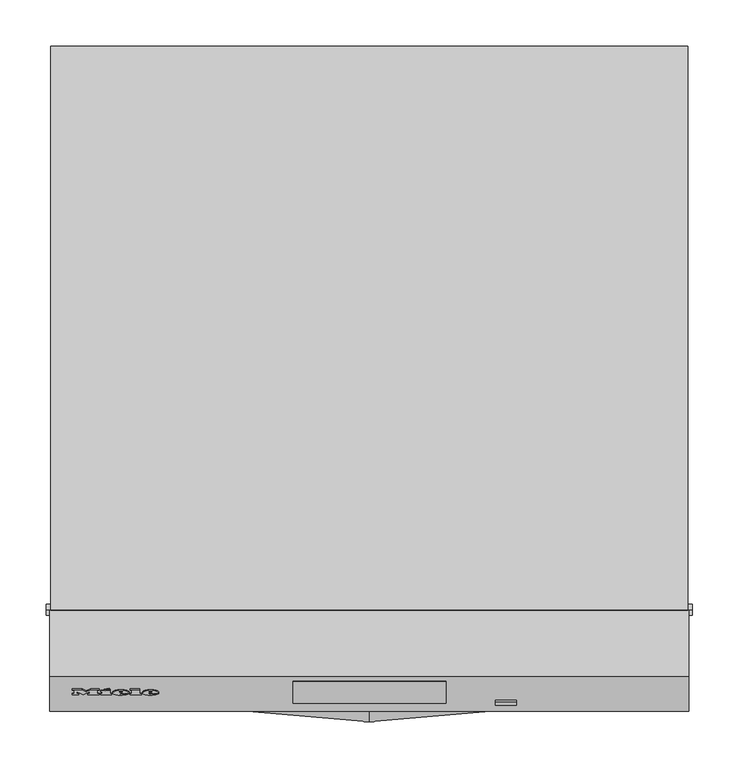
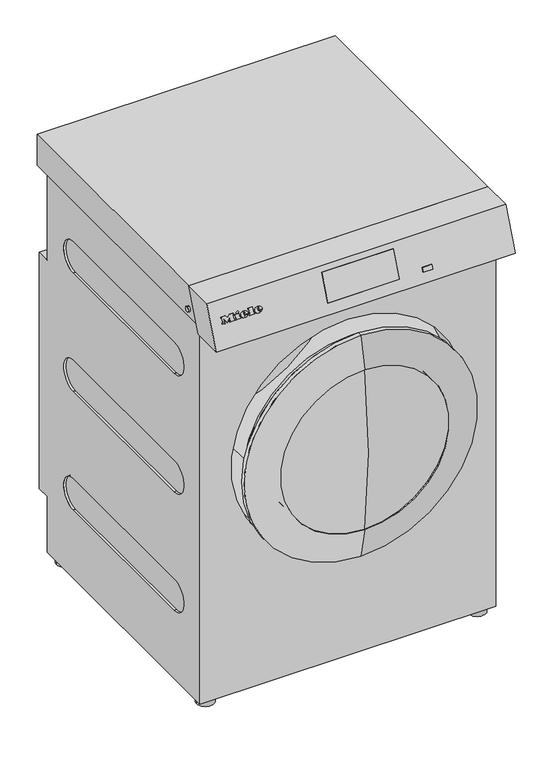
"""IFC4 building model written with IfcOpenShell, lengths in millimetres: proxy geometry, 11924480_EU_PDR910G_IG : 52910010_EU_11924480_PDR910G_IG."""

from ifc_helpers import new_model, si_unit, point, frame, frame_2d, origin, origin_with_axes, place, context, project, spatial, polyline, circle_curve, ellipse_curve, trimmed, segment, composite_curve, outline, extrude, faceted_brep, source, transform, mapped, element, save
from ifc_brep_helpers import plane_surface, cylinder_surface, revolved_surface, extruded_surface, advanced_brep


def specialty_equipment_07fa5085(model_context):
    return source(origin(), model_context, "Body", "SolidModel", [
        advanced_brep(
        [(-238.2722, -700.6126019, 975.6957235), (-238.2722, -700.0401393, 977.1419447), (-227.9696, -700.0401393, 977.1419447), (-245.8952, -700.0401393, 977.1419447), (-241.6602, -701.9559051, 972.3021154), (-228.2314, -700.6126019, 975.6957235), (-232.8822, -700.6126019, 975.6957235), (-236.5474, -701.2474119, 974.0919931), (-238.2722, -699.3146422, 978.9747795), (-238.2722, -698.6968361, 980.5355529), (-235.6388, -698.6968361, 980.5355529), (-235.6388, -699.3146422, 978.9747795), (-238.2722, -699.6827953, 975.3276751), (-236.5474, -700.3176052, 973.7239446), (-232.8822, -699.6827953, 975.3276751), (-228.2314, -699.6827953, 975.3276751), (-241.6602, -701.0260985, 971.9340669), (-245.8952, -699.1103327, 976.7738963), (-227.9696, -699.1103327, 976.7738963), (-238.2722, -699.1103327, 976.7738963), (-238.2722, -698.3848356, 978.6067311), (-235.6388, -698.3848356, 978.6067311), (-235.6388, -697.7670295, 980.1675045), (-238.2722, -697.7670295, 980.1675045)],
        [
            (0, 1),
            (1, 2),
            (2, 3, ellipse_curve(frame((-236.9324, -700.0401393, 977.1419447), z_axis=(0.0, -0.9298066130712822, 0.36804845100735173), x_axis=(-1.0, 0.0, 0.0)), 8.9628, 7.4074)),
            (3, 4, circle_curve(frame((-239.935316, -699.8474292, 977.6287915), z_axis=(0.0, -0.9298066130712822, 0.36804845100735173), x_axis=(0.0, -0.36804845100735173, -0.9298066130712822)), 5.98284)),
            (4, 5, circle_curve(frame((-237.1118224, -698.3510914, 981.4090133), z_axis=(0.0, -0.9298066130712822, 0.36804845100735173), x_axis=(0.0, -0.36804845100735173, -0.9298066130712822)), 10.7989819)),
            (5, 6),
            (6, 7, circle_curve(frame((-235.7946118, -700.0854829, 977.0273926), z_axis=(0.0, 0.9298066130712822, -0.36804845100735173), x_axis=(0.0, -0.36804845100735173, -0.9298066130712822)), 3.2455106)),
            (7, 0, circle_curve(frame((-236.5474, -700.6126019, 975.6957235), z_axis=(0.0, 0.9298066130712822, -0.36804845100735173), x_axis=(0.0, -0.36804845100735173, -0.9298066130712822)), 1.7248)),
            (8, 9),
            (9, 10, circle_curve(frame((-236.9555, -698.6968361, 980.5355529), z_axis=(0.0, 0.9298066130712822, -0.36804845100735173), x_axis=(0.0, -0.36804845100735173, -0.9298066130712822)), 1.3167)),
            (10, 11),
            (11, 8),
            (12, 13, circle_curve(frame((-236.5474, -699.6827953, 975.3276751), z_axis=(0.0, -0.9298066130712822, 0.36804845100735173), x_axis=(0.0, -0.36804845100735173, -0.9298066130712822)), 1.7248)),
            (13, 14, circle_curve(frame((-235.7946118, -699.1556763, 976.6593441), z_axis=(0.0, -0.9298066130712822, 0.36804845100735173), x_axis=(0.0, -0.36804845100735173, -0.9298066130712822)), 3.2455106)),
            (14, 15),
            (15, 16, circle_curve(frame((-237.1118224, -697.4212848, 981.0409648), z_axis=(0.0, 0.9298066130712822, -0.36804845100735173), x_axis=(0.0, -0.36804845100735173, -0.9298066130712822)), 10.7989819)),
            (16, 17, circle_curve(frame((-239.935316, -698.9176225, 977.260743), z_axis=(0.0, 0.9298066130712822, -0.36804845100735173), x_axis=(0.0, -0.36804845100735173, -0.9298066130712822)), 5.98284)),
            (17, 18, ellipse_curve(frame((-236.9324, -699.1103327, 976.7738963), z_axis=(0.0, 0.9298066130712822, -0.36804845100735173), x_axis=(-1.0, 0.0, 0.0)), 8.9628, 7.4074)),
            (18, 19),
            (19, 12),
            (20, 21),
            (21, 22),
            (22, 23, circle_curve(frame((-236.9555, -697.7670295, 980.1675045), z_axis=(0.0, -0.9298066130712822, 0.36804845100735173), x_axis=(0.0, -0.36804845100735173, -0.9298066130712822)), 1.3167)),
            (23, 20),
            (0, 12),
            (19, 1),
            (18, 2),
            (5, 15),
            (14, 6),
            (17, 3),
            (13, 7),
            (16, 4),
            (8, 20),
            (23, 9),
            (22, 10),
            (21, 11),
        ],
        [
            plane_surface(frame((-238.2722, -700.0401393, 977.1419447), z_axis=(0.0, -0.9298066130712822, 0.36804845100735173), x_axis=(0.0, 0.36804845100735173, 0.9298066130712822))),
            plane_surface(frame((-238.2722, -699.1103327, 976.7738963), z_axis=(0.0, 0.9298066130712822, -0.36804845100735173), x_axis=(0.0, -0.36804845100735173, -0.9298066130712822))),
            plane_surface(frame((-238.2722, -700.6126019, 975.6957235), z_axis=(1.0, 0.0, 0.0), x_axis=(0.0, 0.9298066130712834, -0.3680484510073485))),
            plane_surface(frame((-238.2722, -700.0401393, 977.1419447), z_axis=(0.0, -0.3680484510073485, -0.9298066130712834), x_axis=(0.0, 0.9298066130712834, -0.3680484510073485))),
            plane_surface(frame((-228.2314, -700.6126019, 975.6957235), z_axis=(0.0, 0.3680484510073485, 0.9298066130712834), x_axis=(0.0, 0.9298066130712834, -0.3680484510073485))),
            extruded_surface(trimmed(ellipse_curve(frame((-236.9324, -698.1805261, 976.4058478), z_axis=(0.0, -0.9298066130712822, 0.36804845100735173), x_axis=(-1.0, 0.0, 0.0)), 8.9628, 7.4074), [point((-227.9696, -698.1805261, 976.4058478))], [point((-245.8952, -698.1805261, 976.4058478))], True, "CARTESIAN"), (0.0, -0.9298066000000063, 0.3680485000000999), 1.0000000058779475),
            revolved_surface(polyline([(-235.7946118, -700.3501813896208, 973.6416468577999), (-235.7946118, -701.2799880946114, 974.009695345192)]), (-235.7946118, -699.1556763, 976.6593441), (0.0, 0.9298066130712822, -0.36804845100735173)),
            revolved_surface(polyline([(-236.5474, -700.3176051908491, 973.723944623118), (-236.5474, -701.2474118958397, 974.0919931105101)]), (-236.5474, -699.6827953, 975.3276751), (0.0, 0.9298066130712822, -0.36804845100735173)),
            cylinder_surface(frame((-239.935316, -698.9176225, 977.260743), z_axis=(0.0, -0.9298066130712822, 0.36804845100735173), x_axis=(0.0, -0.36804845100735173, -0.9298066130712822)), 5.98284),
            cylinder_surface(frame((-237.1118224, -697.4212848, 981.0409648), z_axis=(0.0, -0.9298066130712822, 0.36804845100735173), x_axis=(0.0, -0.36804845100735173, -0.9298066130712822)), 10.7989819),
            plane_surface(frame((-238.2722, -699.3146422, 978.9747795), z_axis=(1.0, 0.0, 0.0), x_axis=(0.0, 0.9298066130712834, -0.3680484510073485))),
            revolved_surface(polyline([(-236.9555, -698.2516388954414, 978.943228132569), (-236.9555, -699.1814454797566, 979.3112765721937)]), (-236.9555, -697.7670295, 980.1675045), (0.0, 0.9298066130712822, -0.36804845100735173)),
            plane_surface(frame((-235.6388, -698.6968361, 980.5355529), z_axis=(-1.0, 0.0, 0.0), x_axis=(0.0, 0.9298066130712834, -0.3680484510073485))),
            plane_surface(frame((-235.6388, -699.3146422, 978.9747795), z_axis=(0.0, 0.3680484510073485, 0.9298066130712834), x_axis=(0.0, 0.9298066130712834, -0.3680484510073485))),
        ],
        [
            (0, [[1, 2, 3, 4, 5, 6, 7, 8], [9, 10, 11, 12]]),
            (1, [[13, 14, 15, 16, 17, 18, 19, 20], [21, 22, 23, 24]]),
            (2, [[-1, 25, -20, 26]]),
            (3, [[-2, -26, -19, 27]]),
            (4, [[-6, 28, -15, 29]]),
            (5, [[-3, -27, -18, 30]]),
            (6, [[-7, -29, -14, 31]]),
            (7, [[-8, -31, -13, -25]]),
            (8, [[-4, -30, -17, 32]]),
            (9, [[-5, -32, -16, -28]]),
            (10, [[-9, 33, -24, 34]]),
            (11, [[-10, -34, -23, 35]]),
            (12, [[-11, -35, -22, 36]]),
            (13, [[-12, -36, -21, -33]]),
        ],
    ),
        advanced_brep(
        [(-270.412, -700.6126019, 975.6957235), (-270.412, -700.0401393, 977.1419447), (-260.1094, -700.0401393, 977.1419447), (-278.035, -700.0401393, 977.1419447), (-273.8, -701.9559051, 972.3021154), (-260.3712, -700.6126019, 975.6957235), (-265.022, -700.6126019, 975.6957235), (-268.6872, -701.2474119, 974.0919931), (-270.412, -699.3146422, 978.9747795), (-270.412, -698.6968361, 980.5355529), (-267.7786, -698.6968361, 980.5355529), (-267.7786, -699.3146422, 978.9747795), (-270.412, -699.6827953, 975.3276751), (-268.6872, -700.3176052, 973.7239446), (-265.022, -699.6827953, 975.3276751), (-260.3712, -699.6827953, 975.3276751), (-273.8, -701.0260985, 971.9340669), (-278.035, -699.1103327, 976.7738963), (-260.1094, -699.1103327, 976.7738963), (-270.412, -699.1103327, 976.7738963), (-270.412, -698.3848356, 978.6067311), (-267.7786, -698.3848356, 978.6067311), (-267.7786, -697.7670295, 980.1675045), (-270.412, -697.7670295, 980.1675045)],
        [
            (0, 1),
            (1, 2),
            (2, 3, ellipse_curve(frame((-269.0722, -700.0401393, 977.1419447), z_axis=(0.0, -0.9298066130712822, 0.36804845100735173), x_axis=(-1.0, 0.0, 0.0)), 8.9628, 7.4074)),
            (3, 4, circle_curve(frame((-272.075116, -699.8474292, 977.6287915), z_axis=(0.0, -0.9298066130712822, 0.36804845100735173), x_axis=(0.0, -0.36804845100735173, -0.9298066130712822)), 5.98284)),
            (4, 5, circle_curve(frame((-269.2516224, -698.3510914, 981.4090133), z_axis=(0.0, -0.9298066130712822, 0.36804845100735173), x_axis=(0.0, -0.36804845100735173, -0.9298066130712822)), 10.7989819)),
            (5, 6),
            (6, 7, circle_curve(frame((-267.9344118, -700.0854829, 977.0273926), z_axis=(0.0, 0.9298066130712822, -0.36804845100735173), x_axis=(0.0, -0.36804845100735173, -0.9298066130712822)), 3.2455106)),
            (7, 0, circle_curve(frame((-268.6872, -700.6126019, 975.6957235), z_axis=(0.0, 0.9298066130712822, -0.36804845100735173), x_axis=(0.0, -0.36804845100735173, -0.9298066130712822)), 1.7248)),
            (8, 9),
            (9, 10, circle_curve(frame((-269.0953, -698.6968361, 980.5355529), z_axis=(0.0, 0.9298066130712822, -0.36804845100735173), x_axis=(0.0, -0.36804845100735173, -0.9298066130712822)), 1.3167)),
            (10, 11),
            (11, 8),
            (12, 13, circle_curve(frame((-268.6872, -699.6827953, 975.3276751), z_axis=(0.0, -0.9298066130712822, 0.36804845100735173), x_axis=(0.0, -0.36804845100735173, -0.9298066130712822)), 1.7248)),
            (13, 14, circle_curve(frame((-267.9344118, -699.1556763, 976.6593441), z_axis=(0.0, -0.9298066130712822, 0.36804845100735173), x_axis=(0.0, -0.36804845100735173, -0.9298066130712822)), 3.2455106)),
            (14, 15),
            (15, 16, circle_curve(frame((-269.2516224, -697.4212848, 981.0409648), z_axis=(0.0, 0.9298066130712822, -0.36804845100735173), x_axis=(0.0, -0.36804845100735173, -0.9298066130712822)), 10.7989819)),
            (16, 17, circle_curve(frame((-272.075116, -698.9176225, 977.260743), z_axis=(0.0, 0.9298066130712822, -0.36804845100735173), x_axis=(0.0, -0.36804845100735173, -0.9298066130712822)), 5.98284)),
            (17, 18, ellipse_curve(frame((-269.0722, -699.1103327, 976.7738963), z_axis=(0.0, 0.9298066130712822, -0.36804845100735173), x_axis=(-1.0, 0.0, 0.0)), 8.9628, 7.4074)),
            (18, 19),
            (19, 12),
            (20, 21),
            (21, 22),
            (22, 23, circle_curve(frame((-269.0953, -697.7670295, 980.1675045), z_axis=(0.0, -0.9298066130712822, 0.36804845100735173), x_axis=(0.0, -0.36804845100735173, -0.9298066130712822)), 1.3167)),
            (23, 20),
            (0, 12),
            (19, 1),
            (18, 2),
            (5, 15),
            (14, 6),
            (17, 3),
            (13, 7),
            (16, 4),
            (8, 20),
            (23, 9),
            (22, 10),
            (21, 11),
        ],
        [
            plane_surface(frame((-270.412, -700.0401393, 977.1419447), z_axis=(0.0, -0.9298066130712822, 0.36804845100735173), x_axis=(0.0, 0.36804845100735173, 0.9298066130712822))),
            plane_surface(frame((-270.412, -699.1103327, 976.7738963), z_axis=(0.0, 0.9298066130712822, -0.36804845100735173), x_axis=(0.0, -0.36804845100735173, -0.9298066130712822))),
            plane_surface(frame((-270.412, -700.6126019, 975.6957235), z_axis=(1.0, 0.0, 0.0), x_axis=(0.0, 0.9298066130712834, -0.3680484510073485))),
            plane_surface(frame((-270.412, -700.0401393, 977.1419447), z_axis=(0.0, -0.3680484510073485, -0.9298066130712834), x_axis=(0.0, 0.9298066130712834, -0.3680484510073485))),
            plane_surface(frame((-260.3712, -700.6126019, 975.6957235), z_axis=(0.0, 0.3680484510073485, 0.9298066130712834), x_axis=(0.0, 0.9298066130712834, -0.3680484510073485))),
            extruded_surface(trimmed(ellipse_curve(frame((-269.0722, -698.1805261, 976.4058478), z_axis=(0.0, -0.9298066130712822, 0.36804845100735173), x_axis=(-1.0, 0.0, 0.0)), 8.9628, 7.4074), [point((-260.1094, -698.1805261, 976.4058478))], [point((-278.035, -698.1805261, 976.4058478))], True, "CARTESIAN"), (0.0, -0.9298066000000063, 0.3680485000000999), 1.0000000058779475),
            revolved_surface(polyline([(-267.9344118, -700.3501813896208, 973.6416468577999), (-267.9344118, -701.2799880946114, 974.009695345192)]), (-267.9344118, -699.1556763, 976.6593441), (0.0, 0.9298066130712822, -0.36804845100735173)),
            revolved_surface(polyline([(-268.6872, -700.3176051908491, 973.723944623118), (-268.6872, -701.2474118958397, 974.0919931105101)]), (-268.6872, -699.6827953, 975.3276751), (0.0, 0.9298066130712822, -0.36804845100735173)),
            cylinder_surface(frame((-272.075116, -698.9176225, 977.260743), z_axis=(0.0, -0.9298066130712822, 0.36804845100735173), x_axis=(0.0, -0.36804845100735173, -0.9298066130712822)), 5.98284),
            cylinder_surface(frame((-269.2516224, -697.4212848, 981.0409648), z_axis=(0.0, -0.9298066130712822, 0.36804845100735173), x_axis=(0.0, -0.36804845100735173, -0.9298066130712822)), 10.7989819),
            plane_surface(frame((-270.412, -699.3146422, 978.9747795), z_axis=(1.0, 0.0, 0.0), x_axis=(0.0, 0.9298066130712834, -0.3680484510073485))),
            revolved_surface(polyline([(-269.0953, -698.2516388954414, 978.943228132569), (-269.0953, -699.1814454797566, 979.3112765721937)]), (-269.0953, -697.7670295, 980.1675045), (0.0, 0.9298066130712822, -0.36804845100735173)),
            plane_surface(frame((-267.7786, -698.6968361, 980.5355529), z_axis=(-1.0, 0.0, 0.0), x_axis=(0.0, 0.9298066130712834, -0.3680484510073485))),
            plane_surface(frame((-267.7786, -699.3146422, 978.9747795), z_axis=(0.0, 0.3680484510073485, 0.9298066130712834), x_axis=(0.0, 0.9298066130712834, -0.3680484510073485))),
        ],
        [
            (0, [[1, 2, 3, 4, 5, 6, 7, 8], [9, 10, 11, 12]]),
            (1, [[13, 14, 15, 16, 17, 18, 19, 20], [21, 22, 23, 24]]),
            (2, [[-1, 25, -20, 26]]),
            (3, [[-2, -26, -19, 27]]),
            (4, [[-6, 28, -15, 29]]),
            (5, [[-3, -27, -18, 30]]),
            (6, [[-7, -29, -14, 31]]),
            (7, [[-8, -31, -13, -25]]),
            (8, [[-4, -30, -17, 32]]),
            (9, [[-5, -32, -16, -28]]),
            (10, [[-9, 33, -24, 34]]),
            (11, [[-10, -34, -23, 35]]),
            (12, [[-11, -35, -22, 36]]),
            (13, [[-12, -36, -21, -33]]),
        ],
    ),
        extrude(outline(polyline([(0.0, 0.0), (-0.0209991, -5.7737091), (-2.7701549, -5.7597671), (-2.7556966, 0.0), (0.0, 0.0)])), frame((-287.2442, -695.6925612, 985.4082665), z_axis=(0.0, -0.9298066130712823, 0.3680484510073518), x_axis=(-0.4247202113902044, 0.33320333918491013, 0.8417768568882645)), (0.0, 0.0, 1.0), 1.0),
        extrude(outline(polyline([(-0.9497773, 4.6471612), (-5.3516625, -4.7358047), (-13.5635003, -0.8833376), (-14.3222205, -2.5006095), (-16.6644765, -1.4017734), (-11.5038711, 9.5984644), (-9.1616151, 8.4996283), (-9.9399574, 6.8405303), (-4.2237375, 4.1588469), (-3.4453952, 5.8179449), (-0.9497773, 4.6471612)])), frame((-287.2442, -695.6925612, 985.4082665), z_axis=(0.0, -0.9298066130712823, 0.3680484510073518), x_axis=(-0.4247202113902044, 0.33320333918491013, 0.8417768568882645)), (0.0, 0.0, 1.0), 1.0),
        extrude(outline(polyline([(0.0, 0.0), (0.0, -2.5102), (-10.5952, -2.5102), (-10.5952, 10.3026), (-12.4894, 10.3026), (-12.4894, 12.8898), (0.0, 12.8898), (0.0, 10.3026), (-1.848, 10.3026), (-1.848, 0.0), (0.0, 0.0)])), frame((-259.247, -696.2820276, 983.9190882), z_axis=(0.0, -0.9298066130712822, 0.36804845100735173), x_axis=(-1.0, 0.0, 0.0)), (0.0, 0.0, 1.0), 1.0),
        extrude(outline(polyline([(0.0, 0.0), (0.0, -2.5102), (-10.7338, -2.5102), (-15.246, 3.2648), (-19.7428, -2.5102), (-29.1214, -2.5102), (-29.1214, 0.0), (-27.1656, 0.0), (-27.1656, 10.3026), (-29.1214, 10.3026), (-29.1214, 12.8898), (-16.8322, 12.8898), (-16.8322, 10.3026), (-18.7264, 10.3026), (-18.7264, 3.7307777), (-11.8118, 12.8898), (-4.928, 3.7988752), (-4.928, 10.3026), (-6.776, 10.3026), (-6.776, 12.8898), (0.0, 12.8898), (0.0, 10.3026), (-1.8634, 10.3026), (-1.8634, 0.0), (0.0, 0.0)])), frame((-321.7402, -696.2820276, 983.9190882), z_axis=(0.0, -0.9298066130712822, 0.36804845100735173), x_axis=(-1.0, 0.0, 0.0)), (0.0, 0.0, 1.0), 1.0),
        extrude(outline(polyline([(-639.7145833, 946.7), (-711.0145833, 946.7), (-687.0666667, 1007.2), (-615.7666667, 1007.2), (-639.7145833, 946.7)])), frame((-82.85, 0.0, 0.0), z_axis=(1.0, 0.0, 0.0), x_axis=(0.0, 1.0, 0.0)), (0.0, 0.0, 1.0), 165.7),
        faceted_brep([(346.0, -610.7, 1020.0), (346.0, -682.0, 1020.0), (346.0, -720.0, 924.0), (346.0, -648.7, 924.0), (-346.0, -610.7, 1020.0), (-346.0, -648.7, 924.0), (-346.0, -720.0, 924.0), (-346.0, -682.0, 1020.0), (-82.85, -687.0666667, 1007.2), (82.85, -687.0666667, 1007.2), (82.85, -711.0145833, 946.7), (-82.85, -711.0145833, 946.7), (82.85, -615.7666667, 1007.2), (-82.85, -615.7666667, 1007.2), (-82.85, -639.7145833, 946.7), (82.85, -639.7145833, 946.7)], [[[0, 1, 2, 3]], [[4, 5, 6, 7]], [[1, 0, 4, 7]], [[2, 1, 7, 6], [8, 9, 10, 11]], [[3, 2, 6, 5]], [[0, 3, 5, 4], [12, 13, 14, 15]], [[12, 9, 8, 13]], [[13, 8, 11, 14]], [[14, 11, 10, 15]], [[9, 12, 15, 10]]]),
        extrude(outline(polyline([(-707.5708333, 955.4), (-711.1333333, 946.4), (-713.1333333, 946.4), (-709.5708333, 955.4), (-707.5708333, 955.4)])), frame((136.75, 0.0, 0.0), z_axis=(1.0, 0.0, 0.0), x_axis=(0.0, 1.0, 0.0)), (0.0, 0.0, 1.0), 22.5),
        extrude(outline(polyline([(0.0, 943.8), (-640.9, 943.8), (-610.7, 1020.0), (0.0, 1020.0), (0.0, 943.8)])), frame((-345.0, 0.0, 0.0), z_axis=(1.0, 0.0, 0.0), x_axis=(0.0, 1.0, 0.0)), (0.0, 0.0, 1.0), 690.0),
        extrude(outline(composite_curve([segment(trimmed(circle_curve(frame_2d((-610.0, 963.8)), 6.0), [point((-610.0, 957.8))], [point((-610.0, 969.8))], False, "CARTESIAN"), True, "CONTINUOUS"), segment(trimmed(circle_curve(frame_2d((-610.0, 963.8)), 6.0), [point((-610.0, 969.8))], [point((-610.0, 957.8))], False, "CARTESIAN"), True, "CONTINUOUS")], self_intersect=False)), frame((-350.0, 0.0, 0.0), z_axis=(1.0, 0.0, 0.0), x_axis=(0.0, 1.0, 0.0)), (0.0, 0.0, 1.0), 5.0),
        extrude(outline(composite_curve([segment(trimmed(circle_curve(frame_2d((-610.0, 963.8)), 6.0), [point((-610.0, 957.8))], [point((-610.0, 969.8))], False, "CARTESIAN"), True, "CONTINUOUS"), segment(trimmed(circle_curve(frame_2d((-610.0, 963.8)), 6.0), [point((-610.0, 969.8))], [point((-610.0, 957.8))], False, "CARTESIAN"), True, "CONTINUOUS")], self_intersect=False)), frame((345.0, 0.0, 0.0), z_axis=(1.0, 0.0, 0.0), x_axis=(0.0, 1.0, 0.0)), (0.0, 0.0, 1.0), 5.0),
        advanced_brep(
        [(-0.6181593, -731.0, 562.28215), (-0.6181593, -714.5357304, 758.08215), (-0.6181593, -714.5357304, 366.48215), (-0.6181593, -655.0, 366.48215), (-0.6181593, -655.0, 758.08215), (-0.6181593, -655.0, 562.28215)],
        [
            (0, 1, circle_curve(frame((-0.6181593, 441.5, 562.28215), z_axis=(-1.0, 0.0, 0.0), x_axis=(0.0, 1.0, 0.0)), 1172.5)),
            (1, 2, circle_curve(frame((-0.6181593, -714.5357304, 562.28215), z_axis=(0.0, -1.0, 0.0), x_axis=(0.0, 0.0, 1.0)), 195.8)),
            (2, 0, circle_curve(frame((-0.6181593, 441.5, 562.28215), z_axis=(-1.0, 0.0, 0.0), x_axis=(0.0, 1.0, 0.0)), 1172.5)),
            (2, 1, circle_curve(frame((-0.6181593, -714.5357304, 562.28215), z_axis=(0.0, -1.0, 0.0), x_axis=(0.0, 0.0, 1.0)), 195.8)),
            (3, 4, circle_curve(frame((-0.6181593, -655.0, 562.28215), z_axis=(0.0, 1.0, 0.0), x_axis=(0.0, 0.0, 1.0)), 195.8)),
            (4, 5),
            (5, 3),
            (4, 3, circle_curve(frame((-0.6181593, -655.0, 562.28215), z_axis=(0.0, 1.0, 0.0), x_axis=(0.0, 0.0, 1.0)), 195.8)),
            (1, 4),
            (3, 2),
        ],
        [
            revolved_surface(trimmed(ellipse_curve(frame((-0.6181593, 441.5, 562.28215), z_axis=(1.0, 0.0, 0.0), x_axis=(0.0, 1.0, 0.0)), 1172.5, 1172.5), [point((-0.6181593, -714.5357304, 758.08215))], [point((-0.6181593, -731.0, 562.28215))], True, "CARTESIAN"), (-0.6181593, -1133.7365177, 562.28215), (0.0, -1.0, 0.0)),
            plane_surface(frame((-0.6181593, -655.0, 562.28215), z_axis=(0.0, 1.0, 0.0), x_axis=(0.0, 0.0, 1.0))),
            cylinder_surface(frame((-0.6181593, -1133.7365177, 562.28215), z_axis=(0.0, -1.0, 0.0), x_axis=(0.0, 0.0, 1.0)), 195.8),
        ],
        [
            (0, [[1, 2, 3]]),
            (0, [[-3, 4, -1]]),
            (1, [[5, 6, 7]]),
            (1, [[8, -7, -6]]),
            (2, [[-2, 9, -5, 10]]),
            (2, [[-4, -10, -8, -9]]),
        ],
    ),
        advanced_brep(
        [(-0.6181593, -655.0, 327.28215), (-0.6181593, -655.0, 797.28215), (-0.6181593, -655.0, 758.08215), (-0.6181593, -655.0, 366.48215), (-0.6181593, -661.5, 315.18215), (-0.6181593, -661.5, 809.38215), (-0.6181593, -690.7, 292.28215), (-0.6181593, -690.7, 832.28215), (-0.6181593, -700.5, 292.28215), (-0.6181593, -700.5, 832.28215), (-0.6181593, -717.25, 366.48215), (-0.6181593, -717.25, 758.08215)],
        [
            (0, 1, circle_curve(frame((-0.6181593, -655.0, 562.28215), z_axis=(0.0, 1.0, 0.0), x_axis=(0.0, 0.0, 1.0)), 235.0)),
            (1, 2),
            (2, 3, circle_curve(frame((-0.6181593, -655.0, 562.28215), z_axis=(0.0, -1.0, 0.0), x_axis=(0.0, 0.0, 1.0)), 195.8)),
            (3, 0),
            (1, 0, circle_curve(frame((-0.6181593, -655.0, 562.28215), z_axis=(0.0, 1.0, 0.0), x_axis=(0.0, 0.0, 1.0)), 235.0)),
            (3, 2, circle_curve(frame((-0.6181593, -655.0, 562.28215), z_axis=(0.0, -1.0, 0.0), x_axis=(0.0, 0.0, 1.0)), 195.8)),
            (4, 5, circle_curve(frame((-0.6181593, -661.5, 562.28215), z_axis=(0.0, 1.0, 0.0), x_axis=(0.0, 0.0, 1.0)), 247.1)),
            (5, 1),
            (0, 4),
            (5, 4, circle_curve(frame((-0.6181593, -661.5, 562.28215), z_axis=(0.0, 1.0, 0.0), x_axis=(0.0, 0.0, 1.0)), 247.1)),
            (6, 7, circle_curve(frame((-0.6181593, -690.7, 562.28215), z_axis=(0.0, 1.0, 0.0), x_axis=(0.0, 0.0, 1.0)), 270.0)),
            (7, 5),
            (4, 6),
            (7, 6, circle_curve(frame((-0.6181593, -690.7, 562.28215), z_axis=(0.0, 1.0, 0.0), x_axis=(0.0, 0.0, 1.0)), 270.0)),
            (8, 9, circle_curve(frame((-0.6181593, -700.5, 562.28215), z_axis=(0.0, 1.0, 0.0), x_axis=(0.0, 0.0, 1.0)), 270.0)),
            (9, 7),
            (6, 8),
            (9, 8, circle_curve(frame((-0.6181593, -700.5, 562.28215), z_axis=(0.0, 1.0, 0.0), x_axis=(0.0, 0.0, 1.0)), 270.0)),
            (10, 11, circle_curve(frame((-0.6181593, -717.25, 562.28215), z_axis=(0.0, 1.0, 0.0), x_axis=(0.0, 0.0, 1.0)), 195.8)),
            (11, 9),
            (8, 10),
            (11, 10, circle_curve(frame((-0.6181593, -717.25, 562.28215), z_axis=(0.0, 1.0, 0.0), x_axis=(0.0, 0.0, 1.0)), 195.8)),
            (2, 11),
            (10, 3),
        ],
        [
            plane_surface(frame((-0.6181593, -655.0, 562.28215), z_axis=(0.0, 1.0, 0.0), x_axis=(0.0, 0.0, 1.0))),
            revolved_surface(polyline([(-0.6181593, -655.0, 797.28215), (-0.6181593, -661.5, 809.38215)]), (-0.6181593, -1133.7365177, 562.28215), (0.0, -1.0, 0.0)),
            revolved_surface(polyline([(-0.6181593, -661.5, 809.38215), (-0.6181593, -690.7, 832.28215)]), (-0.6181593, -1133.7365177, 562.28215), (0.0, -1.0, 0.0)),
            cylinder_surface(frame((-0.6181593, -1133.7365177, 562.28215), z_axis=(0.0, -1.0, 0.0), x_axis=(0.0, 0.0, 1.0)), 270.0),
            revolved_surface(polyline([(-0.6181593, -700.5, 832.28215), (-0.6181593, -717.25, 758.08215)]), (-0.6181593, -1133.7365177, 562.28215), (0.0, -1.0, 0.0)),
            revolved_surface(polyline([(-0.6181593, -717.25, 758.08215), (-0.6181593, -655.0, 758.08215)]), (-0.6181593, -1133.7365177, 562.28215), (0.0, -1.0, 0.0)),
        ],
        [
            (0, [[1, 2, 3, 4]]),
            (0, [[5, -4, 6, -2]]),
            (1, [[7, 8, -1, 9]]),
            (1, [[10, -9, -5, -8]]),
            (2, [[11, 12, -7, 13]]),
            (2, [[14, -13, -10, -12]]),
            (3, [[15, 16, -11, 17]]),
            (3, [[18, -17, -14, -16]]),
            (4, [[19, 20, -15, 21]]),
            (4, [[22, -21, -18, -20]]),
            (5, [[-3, 23, -19, 24]]),
            (5, [[-6, -24, -22, -23]]),
        ],
    ),
        extrude(outline(polyline([(240.6772603, -32.7), (233.3, -32.7), (233.3, -31.4442961), (239.4215564, -31.4442961), (239.4215564, -28.1480734), (233.770889, -28.1480734), (233.770889, -26.8923696), (239.4215564, -26.8923696), (239.4215564, -23.9100729), (233.456963, -23.9100729), (233.456963, -22.654369), (240.6772603, -22.654369), (240.6772603, -32.7)])), frame((0.0, 0.0, 779.0), z_axis=(0.0, 0.0, 1.0), x_axis=(1.0, 0.0, 0.0)), (0.0, 0.0, 1.0), 1.0),
        extrude(outline(polyline([(231.4164442, -32.7), (225.1379248, -32.7), (225.1379248, -31.4442961), (230.1607403, -31.4442961), (230.1607403, -22.654369), (231.4164442, -22.654369), (231.4164442, -32.7)])), frame((0.0, 0.0, 779.0), z_axis=(0.0, 0.0, 1.0), x_axis=(1.0, 0.0, 0.0)), (0.0, 0.0, 1.0), 1.0),
        extrude(outline(composite_curve([segment(trimmed(circle_curve(frame_2d((233.3, -27.7)), 7.5), [point((225.8, -27.7))], [point((240.8, -27.7))], False, "CARTESIAN"), True, "CONTINUOUS"), segment(trimmed(circle_curve(frame_2d((233.3, -27.7)), 7.5), [point((240.8, -27.7))], [point((225.8, -27.7))], False, "CARTESIAN"), True, "CONTINUOUS")], self_intersect=False)), frame((0.0, 0.0, 780.0), z_axis=(0.0, 0.0, 1.0), x_axis=(1.0, 0.0, 0.0)), (0.0, 0.0, 1.0), 30.0),
        extrude(outline(polyline([(-36.0, 810.0), (-36.0, 890.8), (-11.2, 863.0), (-11.2, 810.0), (-36.0, 810.0)])), frame((197.0, 0.0, 0.0), z_axis=(1.0, 0.0, 0.0), x_axis=(0.0, 1.0, 0.0)), (0.0, 0.0, 1.0), 76.0),
        extrude(outline(polyline([(85.0, -189.952875), (95.045631, -193.9627887), (95.045631, -195.0320991), (85.0, -199.0420128), (85.0, -197.7151851), (88.1392597, -196.5649407), (88.1392597, -192.4274945), (85.0, -191.2797027), (85.0, -189.952875)]), holes=[polyline([(89.3949636, -192.8885733), (89.3949636, -196.1063145), (91.864678, -195.2013248), (93.7899271, -194.4974439), (92.0805021, -193.8720445), (89.3949636, -192.8885733)])]), frame((0.0, -6.0, 0.0), z_axis=(0.0, 1.0, 0.0), x_axis=(0.0, 0.0, 1.0)), (0.0, 0.0, 1.0), 1.0),
        extrude(outline(polyline([(85.0, -200.3835558), (95.045631, -200.3835558), (95.045631, -201.6392597), (86.2557039, -201.6392597), (86.2557039, -206.6620752), (85.0, -206.6620752), (85.0, -200.3835558)])), frame((0.0, -6.0, 0.0), z_axis=(0.0, 1.0, 0.0), x_axis=(0.0, 0.0, 1.0)), (0.0, 0.0, 1.0), 1.0),
        extrude(outline(composite_curve([segment(trimmed(circle_curve(frame_2d((90.0, -198.5)), 57.5), [point((32.5, -198.5))], [point((147.5, -198.5))], False, "CARTESIAN"), True, "CONTINUOUS"), segment(trimmed(circle_curve(frame_2d((90.0, -198.5)), 57.5), [point((147.5, -198.5))], [point((32.5, -198.5))], False, "CARTESIAN"), True, "CONTINUOUS")], self_intersect=False)), frame((0.0, -36.0, 0.0), z_axis=(0.0, 1.0, 0.0), x_axis=(0.0, 0.0, 1.0)), (0.0, 0.0, 1.0), 30.0),
        extrude(outline(polyline([(148.7240746, 75.9848528), (149.9797785, 75.9848528), (149.9797785, 71.9038152), (146.2249296, 71.9038152), (145.0403496, 73.9185823), (144.643037, 76.048619), (145.2745678, 78.7304788), (147.1029413, 80.5502684), (149.7737646, 81.1646313), (152.5046753, 80.5527209), (154.3870048, 78.7930187), (155.002594, 76.1491734), (154.6457485, 74.1846836), (153.6524671, 72.8075787), (151.9908667, 72.0485155), (151.664678, 73.2061175), (152.8259589, 73.7787871), (153.4955041, 74.7573532), (153.7468901, 76.1687938), (153.4758837, 77.7764381), (152.7646452, 78.8702739), (151.7971155, 79.51652), (149.8252681, 79.9089274), (147.6363702, 79.4368122), (146.3267103, 78.0633861), (145.8987409, 76.1491734), (146.2212508, 74.4311645), (146.9091901, 73.1595191), (148.7240746, 73.1595191), (148.7240746, 75.9848528)])), frame((0.0, -6.0, 0.0), z_axis=(0.0, 1.0, 0.0), x_axis=(0.0, 0.0, 1.0)), (0.0, 0.0, 1.0), 1.0),
        extrude(outline(polyline([(145.7417779, 65.3113699), (144.8907442, 66.5290593), (144.643037, 67.8742811), (145.2390058, 69.6977495), (146.7620373, 70.3341854), (147.7553187, 70.0938358), (148.4763674, 69.462305), (148.8883952, 68.5830671), (149.0772413, 67.4965889), (149.5088895, 65.3187275), (150.7155425, 65.6571789), (151.0785194, 67.0453203), (150.8369435, 68.3157395), (149.9797785, 68.9215185), (150.1367415, 70.1772224), (151.3630148, 69.6339833), (152.081611, 68.5401475), (152.3342233, 66.8834523), (152.1110415, 65.3616471), (151.5506346, 64.5020295), (150.6983747, 64.1169797), (149.5996338, 64.055666), (148.0373616, 64.055666), (145.8558213, 63.9918998), (144.8, 63.74174), (144.8, 64.9974439), (145.7417779, 65.3113699)]), holes=[polyline([(148.075376, 65.3150487), (147.8681358, 67.3371734), (147.6645745, 68.4175202), (145.8987409, 67.6069535), (146.1991779, 66.3365344), (146.9263579, 65.5173838), (148.075376, 65.3150487)])]), frame((0.0, -6.0, 0.0), z_axis=(0.0, 1.0, 0.0), x_axis=(0.0, 0.0, 1.0)), (0.0, 0.0, 1.0), 1.0),
        extrude(outline(polyline([(146.9974818, 62.7999621), (147.1544448, 61.5442582), (146.222477, 60.9630047), (145.8987409, 59.6312719), (146.195499, 58.3510425), (146.8920223, 57.9341096), (147.8141798, 59.6459871), (148.4285427, 61.5369006), (149.1459126, 62.3621825), (150.1588144, 62.6429991), (151.0944609, 62.4173648), (151.8093783, 61.8017756), (152.1809391, 61.0034717), (152.3342233, 59.9231249), (152.0877423, 58.3951884), (151.4206496, 57.4239799), (150.2937045, 56.9923317), (150.1367415, 58.2480356), (150.8295859, 58.7201508), (151.0785194, 59.825023), (150.8406224, 61.0267709), (149.376452, 59.6876804), (148.7853883, 57.8445916), (148.115843, 56.9886529), (147.0244598, 56.6784057), (145.8227119, 57.0426089), (144.9508316, 58.0935251), (144.643037, 59.6484397), (145.2365533, 61.8385638), (146.9974818, 62.7999621)])), frame((0.0, -6.0, 0.0), z_axis=(0.0, 1.0, 0.0), x_axis=(0.0, 0.0, 1.0)), (0.0, 0.0, 1.0), 1.0),
        extrude(outline(composite_curve([segment(trimmed(circle_curve(frame_2d((149.8, 69.0)), 7.5), [point((149.8, 61.5))], [point((149.8, 76.5))], False, "CARTESIAN"), True, "CONTINUOUS"), segment(trimmed(circle_curve(frame_2d((149.8, 69.0)), 7.5), [point((149.8, 76.5))], [point((149.8, 61.5))], False, "CARTESIAN"), True, "CONTINUOUS")], self_intersect=False)), frame((0.0, -36.0, 0.0), z_axis=(0.0, 1.0, 0.0), x_axis=(0.0, 0.0, 1.0)), (0.0, 0.0, 1.0), 30.0),
        extrude(outline(composite_curve([segment(trimmed(circle_curve(frame_2d((-314.5, -60.1)), 20.0), [point((-334.5, -60.1))], [point((-294.5, -60.1))], False, "CARTESIAN"), True, "CONTINUOUS"), segment(trimmed(circle_curve(frame_2d((-314.5, -60.1)), 20.0), [point((-294.5, -60.1))], [point((-334.5, -60.1))], False, "CARTESIAN"), True, "CONTINUOUS")], self_intersect=False)), origin_with_axes(), (0.0, 0.0, 1.0), 18.2),
        extrude(outline(composite_curve([segment(trimmed(circle_curve(frame_2d((314.5, -60.1)), 20.0), [point((294.5, -60.1))], [point((334.5, -60.1))], False, "CARTESIAN"), True, "CONTINUOUS"), segment(trimmed(circle_curve(frame_2d((314.5, -60.1)), 20.0), [point((334.5, -60.1))], [point((294.5, -60.1))], False, "CARTESIAN"), True, "CONTINUOUS")], self_intersect=False)), origin_with_axes(), (0.0, 0.0, 1.0), 18.2),
        extrude(outline(composite_curve([segment(trimmed(circle_curve(frame_2d((314.5, -621.3)), 20.0), [point((294.5, -621.3))], [point((334.5, -621.3))], False, "CARTESIAN"), True, "CONTINUOUS"), segment(trimmed(circle_curve(frame_2d((314.5, -621.3)), 20.0), [point((334.5, -621.3))], [point((294.5, -621.3))], False, "CARTESIAN"), True, "CONTINUOUS")], self_intersect=False)), origin_with_axes(), (0.0, 0.0, 1.0), 18.2),
        extrude(outline(composite_curve([segment(trimmed(circle_curve(frame_2d((-314.5, -621.3)), 20.0), [point((-334.5, -621.3))], [point((-294.5, -621.3))], False, "CARTESIAN"), True, "CONTINUOUS"), segment(trimmed(circle_curve(frame_2d((-314.5, -621.3)), 20.0), [point((-294.5, -621.3))], [point((-334.5, -621.3))], False, "CARTESIAN"), True, "CONTINUOUS")], self_intersect=False)), origin_with_axes(), (0.0, 0.0, 1.0), 18.2),
        advanced_brep(
        [(-342.5, -648.7, 18.2), (342.5, -648.7, 18.2), (342.5, -648.7, 924.0), (-342.5, -648.7, 924.0), (0.0, -648.7, 299.8), (0.0, -648.7, 839.8), (342.5, -5.0, 733.5), (342.5, -5.0, 433.0), (149.5, -5.0, 433.0), (-80.0, -5.0, 155.0), (-342.5, -5.0, 155.0), (-342.5, -5.0, 733.5), (-151.0, -5.0, 733.5), (-151.0, -5.0, 943.8), (149.5, -5.0, 943.8), (149.5, -5.0, 733.5), (-342.5, -640.9, 943.8), (342.5, -640.9, 943.8), (342.5, -36.0, 943.8), (149.5, -36.0, 943.8), (-151.0, -36.0, 943.8), (-342.5, -36.0, 943.8), (-342.5, -36.0, 733.5), (-342.5, -36.0, 155.0), (-342.5, -36.0, 18.2), (-342.5, -141.0, 841.5708469), (-342.5, -546.0, 841.5708469), (-342.5, -546.0, 765.5708469), (-342.5, -141.0, 765.5708469), (-342.5, -141.0, 551.8), (-342.5, -546.0, 551.8), (-342.5, -546.0, 475.8), (-342.5, -141.0, 475.8), (-342.5, -141.0, 261.8), (-342.5, -546.0, 261.8), (-342.5, -546.0, 185.8), (-342.5, -141.0, 185.8), (342.5, -36.0, 18.2), (342.5, -36.0, 433.0), (342.5, -36.0, 733.5), (342.5, -548.1, 841.5708469), (342.5, -141.0, 841.5708469), (342.5, -141.0, 765.5708469), (342.5, -548.1, 765.5708469), (342.5, -548.1, 551.8), (342.5, -141.0, 551.8), (342.5, -141.0, 475.8), (342.5, -548.1, 475.8), (342.5, -548.1, 261.8), (342.5, -141.0, 261.8), (342.5, -141.0, 185.8), (342.5, -548.1, 185.8), (0.0, -74.7, 245.4), (0.0, -74.7, 569.8), (0.0, -74.7, 894.2), (0.0, -583.4, 894.2), (0.0, -583.4, 245.4), (0.0, -583.4, 839.8), (0.0, -583.4, 299.8), (-151.0, -36.0, 733.5), (149.5, -36.0, 733.5), (-80.0, -36.0, 155.0), (149.5, -36.0, 433.0), (-337.3, -141.0, 841.5708469), (-337.3, -546.0, 841.5708469), (-337.3, -141.0, 551.8), (-337.3, -546.0, 551.8), (337.3, -548.1, 551.8), (337.3, -141.0, 551.8), (337.3, -548.1, 261.8), (337.3, -141.0, 261.8), (-337.3, -141.0, 765.5708469), (-337.3, -546.0, 765.5708469), (-337.3, -141.0, 475.8), (-337.3, -546.0, 475.8), (-337.3, -546.0, 261.8), (-337.3, -141.0, 261.8), (-337.3, -141.0, 185.8), (-337.3, -546.0, 185.8), (337.3, -548.1, 841.5708469), (337.3, -548.1, 765.5708469), (337.3, -141.0, 765.5708469), (337.3, -141.0, 841.5708469), (337.3, -548.1, 475.8), (337.3, -141.0, 475.8), (337.3, -548.1, 185.8), (337.3, -141.0, 185.8)],
        [
            (0, 1),
            (1, 2),
            (2, 3),
            (3, 0),
            (4, 5, circle_curve(frame((0.0, -648.7, 569.8), z_axis=(0.0, 1.0, 0.0), x_axis=(0.0, 0.0, 1.0)), 270.0)),
            (5, 4, circle_curve(frame((0.0, -648.7, 569.8), z_axis=(0.0, 1.0, 0.0), x_axis=(0.0, 0.0, 1.0)), 270.0)),
            (6, 7),
            (7, 8),
            (8, 9),
            (9, 10),
            (10, 11),
            (11, 12),
            (12, 13),
            (13, 14),
            (14, 15),
            (15, 6),
            (16, 17),
            (17, 18),
            (18, 19),
            (19, 14),
            (13, 20),
            (20, 21),
            (21, 16),
            (3, 16),
            (21, 22),
            (22, 11),
            (10, 23),
            (23, 24),
            (24, 0),
            (25, 26),
            (26, 27, circle_curve(frame((-342.5, -546.0, 803.5708469), z_axis=(1.0, 0.0, 0.0), x_axis=(0.0, 0.0, -1.0)), 38.0)),
            (27, 28),
            (28, 25, circle_curve(frame((-342.5, -141.0, 803.5708469), z_axis=(1.0, 0.0, 0.0), x_axis=(0.0, 0.0, -1.0)), 38.0)),
            (29, 30),
            (30, 31, circle_curve(frame((-342.5, -546.0, 513.8), z_axis=(1.0, 0.0, 0.0), x_axis=(0.0, 0.0, -1.0)), 38.0)),
            (31, 32),
            (32, 29, circle_curve(frame((-342.5, -141.0, 513.8), z_axis=(1.0, 0.0, 0.0), x_axis=(0.0, 0.0, -1.0)), 38.0)),
            (33, 34),
            (34, 35, circle_curve(frame((-342.5, -546.0, 223.8), z_axis=(1.0, 0.0, 0.0), x_axis=(0.0, 0.0, -1.0)), 38.0)),
            (35, 36),
            (36, 33, circle_curve(frame((-342.5, -141.0, 223.8), z_axis=(1.0, 0.0, 0.0), x_axis=(0.0, 0.0, -1.0)), 38.0)),
            (24, 37),
            (37, 1),
            (37, 38),
            (38, 7),
            (6, 39),
            (39, 18),
            (17, 2),
            (40, 41),
            (41, 42, circle_curve(frame((342.5, -141.0, 803.5708469), z_axis=(-1.0, 0.0, 0.0), x_axis=(0.0, 0.0, -1.0)), 38.0)),
            (42, 43),
            (43, 40, circle_curve(frame((342.5, -548.1, 803.5708469), z_axis=(-1.0, 0.0, 0.0), x_axis=(0.0, 0.0, -1.0)), 38.0)),
            (44, 45),
            (45, 46, circle_curve(frame((342.5, -141.0, 513.8), z_axis=(-1.0, 0.0, 0.0), x_axis=(0.0, 0.0, -1.0)), 38.0)),
            (46, 47),
            (47, 44, circle_curve(frame((342.5, -548.1, 513.8), z_axis=(-1.0, 0.0, 0.0), x_axis=(0.0, 0.0, -1.0)), 38.0)),
            (48, 49),
            (49, 50, circle_curve(frame((342.5, -141.0, 223.8), z_axis=(-1.0, 0.0, 0.0), x_axis=(0.0, 0.0, -1.0)), 38.0)),
            (50, 51),
            (51, 48, circle_curve(frame((342.5, -548.1, 223.8), z_axis=(-1.0, 0.0, 0.0), x_axis=(0.0, 0.0, -1.0)), 38.0)),
            (52, 53),
            (53, 54),
            (54, 52, circle_curve(frame((0.0, -74.7, 569.8), z_axis=(0.0, -1.0, 0.0), x_axis=(0.0, 0.0, 1.0)), 324.4)),
            (52, 54, circle_curve(frame((0.0, -74.7, 569.8), z_axis=(0.0, -1.0, 0.0), x_axis=(0.0, 0.0, 1.0)), 324.4)),
            (54, 55),
            (55, 56, circle_curve(frame((0.0, -583.4, 569.8), z_axis=(0.0, -1.0, 0.0), x_axis=(0.0, 0.0, 1.0)), 324.4)),
            (56, 52),
            (56, 55, circle_curve(frame((0.0, -583.4, 569.8), z_axis=(0.0, -1.0, 0.0), x_axis=(0.0, 0.0, 1.0)), 324.4)),
            (55, 57),
            (57, 58, circle_curve(frame((0.0, -583.4, 569.8), z_axis=(0.0, -1.0, 0.0), x_axis=(0.0, 0.0, 1.0)), 270.0)),
            (58, 56),
            (58, 57, circle_curve(frame((0.0, -583.4, 569.8), z_axis=(0.0, -1.0, 0.0), x_axis=(0.0, 0.0, 1.0)), 270.0)),
            (57, 5),
            (4, 58),
            (59, 22),
            (20, 59),
            (39, 60),
            (60, 19),
            (23, 61),
            (61, 62),
            (62, 38),
            (59, 12),
            (60, 15),
            (62, 8),
            (61, 9),
            (63, 64),
            (64, 26),
            (25, 63),
            (65, 66),
            (66, 30),
            (29, 65),
            (67, 68),
            (68, 45),
            (44, 67),
            (69, 70),
            (70, 49),
            (48, 69),
            (63, 71, circle_curve(frame((-337.3, -141.0, 803.5708469), z_axis=(-1.0, 0.0, 0.0), x_axis=(0.0, 0.0, -1.0)), 38.0)),
            (71, 72),
            (72, 64, circle_curve(frame((-337.3, -546.0, 803.5708469), z_axis=(-1.0, 0.0, 0.0), x_axis=(0.0, 0.0, -1.0)), 38.0)),
            (65, 73, circle_curve(frame((-337.3, -141.0, 513.8), z_axis=(-1.0, 0.0, 0.0), x_axis=(0.0, 0.0, -1.0)), 38.0)),
            (73, 74),
            (74, 66, circle_curve(frame((-337.3, -546.0, 513.8), z_axis=(-1.0, 0.0, 0.0), x_axis=(0.0, 0.0, -1.0)), 38.0)),
            (75, 76),
            (76, 77, circle_curve(frame((-337.3, -141.0, 223.8), z_axis=(-1.0, 0.0, 0.0), x_axis=(0.0, 0.0, -1.0)), 38.0)),
            (77, 78),
            (78, 75, circle_curve(frame((-337.3, -546.0, 223.8), z_axis=(-1.0, 0.0, 0.0), x_axis=(0.0, 0.0, -1.0)), 38.0)),
            (28, 71),
            (27, 72),
            (32, 73),
            (31, 74),
            (75, 34),
            (33, 76),
            (36, 77),
            (35, 78),
            (79, 80, circle_curve(frame((337.3, -548.1, 803.5708469), z_axis=(1.0, 0.0, 0.0), x_axis=(0.0, 0.0, -1.0)), 38.0)),
            (80, 81),
            (81, 82, circle_curve(frame((337.3, -141.0, 803.5708469), z_axis=(1.0, 0.0, 0.0), x_axis=(0.0, 0.0, -1.0)), 38.0)),
            (82, 79),
            (67, 83, circle_curve(frame((337.3, -548.1, 513.8), z_axis=(1.0, 0.0, 0.0), x_axis=(0.0, 0.0, -1.0)), 38.0)),
            (83, 84),
            (84, 68, circle_curve(frame((337.3, -141.0, 513.8), z_axis=(1.0, 0.0, 0.0), x_axis=(0.0, 0.0, -1.0)), 38.0)),
            (69, 85, circle_curve(frame((337.3, -548.1, 223.8), z_axis=(1.0, 0.0, 0.0), x_axis=(0.0, 0.0, -1.0)), 38.0)),
            (85, 86),
            (86, 70, circle_curve(frame((337.3, -141.0, 223.8), z_axis=(1.0, 0.0, 0.0), x_axis=(0.0, 0.0, -1.0)), 38.0)),
            (82, 41),
            (40, 79),
            (81, 42),
            (80, 43),
            (84, 46),
            (83, 47),
            (86, 50),
            (85, 51),
        ],
        [
            plane_surface(frame((-342.5, -648.7, 943.8), z_axis=(0.0, -1.0, 0.0), x_axis=(-1.0, 0.0, 0.0))),
            plane_surface(frame((-342.5, -5.0, 943.8), z_axis=(0.0, 1.0, 0.0), x_axis=(1.0, 0.0, 0.0))),
            plane_surface(frame((342.5, -648.7, 943.8), z_axis=(0.0, 0.0, 1.0), x_axis=(0.0, 1.0, 0.0))),
            plane_surface(frame((-342.5, -648.7, 943.8), z_axis=(-1.0, 0.0, 0.0), x_axis=(0.0, 1.0, 0.0))),
            plane_surface(frame((-342.5, -648.7, 18.2), z_axis=(0.0, 0.0, -1.0), x_axis=(0.0, 1.0, 0.0))),
            plane_surface(frame((342.5, -648.7, 18.2), z_axis=(1.0, 0.0, 0.0), x_axis=(0.0, 1.0, 0.0))),
            plane_surface(frame((0.0, -74.7, 569.8), z_axis=(0.0, -1.0, 0.0), x_axis=(0.0, 0.0, 1.0))),
            revolved_surface(polyline([(0.0, -583.4, 894.1999999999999), (0.0, -74.70000000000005, 894.1999999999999)]), (0.0, -777.4462454, 569.8), (0.0, -1.0, 0.0)),
            plane_surface(frame((0.0, -583.4, 569.8), z_axis=(0.0, 1.0, 0.0), x_axis=(0.0, 0.0, 1.0))),
            revolved_surface(polyline([(0.0, -648.7, 839.8), (0.0, -583.4, 839.8)]), (0.0, -777.4462454, 569.8), (0.0, -1.0, 0.0)),
            plane_surface(frame((-342.5, -640.9, 943.8), z_axis=(0.0, -0.9304083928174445, 0.36652451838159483), x_axis=(1.0, 0.0, 0.0))),
            plane_surface(frame((-151.0, -36.0, 733.5), z_axis=(0.0, 1.0, 0.0), x_axis=(1.0, 0.0, 0.0))),
            plane_surface(frame((-342.5, -36.0, 733.5), z_axis=(0.0, 0.0, 1.0), x_axis=(0.0, 1.0, 0.0))),
            plane_surface(frame((-151.0, -36.0, 733.5), z_axis=(-1.0, 0.0, 0.0), x_axis=(0.0, 1.0, 0.0))),
            plane_surface(frame((149.5, -36.0, 1020.0), z_axis=(1.0, 0.0, 0.0), x_axis=(0.0, 1.0, 0.0))),
            plane_surface(frame((149.5, -36.0, 733.5), z_axis=(0.0, 0.0, 1.0), x_axis=(0.0, 1.0, 0.0))),
            plane_surface(frame((342.5, -36.0, 433.0), z_axis=(0.0, 0.0, -1.0), x_axis=(0.0, 1.0, 0.0))),
            plane_surface(frame((149.5, -36.0, 433.0), z_axis=(0.7711689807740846, 0.0, -0.636630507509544), x_axis=(0.0, 1.0, 0.0))),
            plane_surface(frame((-80.0, -36.0, 155.0), z_axis=(0.0, 0.0, -1.0), x_axis=(0.0, 1.0, 0.0))),
            plane_surface(frame((-337.3, -141.0, 841.5708469), z_axis=(0.0, 0.0, -1.0), x_axis=(-1.0, 0.0, 0.0))),
            plane_surface(frame((-337.3, -141.0, 551.8), z_axis=(0.0, 0.0, -1.0), x_axis=(-1.0, 0.0, 0.0))),
            plane_surface(frame((337.3, -548.1, 551.8), z_axis=(0.0, 0.0, -1.0), x_axis=(1.0, 0.0, 0.0))),
            plane_surface(frame((337.3, -548.1, 261.8), z_axis=(0.0, 0.0, -1.0), x_axis=(1.0, 0.0, 0.0))),
            plane_surface(frame((-337.3, -546.0, 765.5708469), z_axis=(-1.0, 0.0, 0.0), x_axis=(0.0, 1.0, 0.0))),
            revolved_surface(polyline([(-337.3, -141.0, 765.5708469), (-342.5, -141.0, 765.5708469)]), (-809.0117344, -141.0, 803.5708469), (1.0, 0.0, 0.0)),
            plane_surface(frame((-337.3, -546.0, 765.5708469), z_axis=(0.0, 0.0, 1.0), x_axis=(-1.0, 0.0, 0.0))),
            revolved_surface(polyline([(-337.29999999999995, -141.0, 475.79999999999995), (-342.5, -141.0, 475.79999999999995)]), (-1042.3, -141.0, 513.8), (1.0, 0.0, 0.0)),
            plane_surface(frame((-337.3, -546.0, 475.8), z_axis=(0.0, 0.0, 1.0), x_axis=(-1.0, 0.0, 0.0))),
            plane_surface(frame((-337.3, -141.0, 261.8), z_axis=(0.0, 0.0, -1.0), x_axis=(-1.0, 0.0, 0.0))),
            revolved_surface(polyline([(-337.29999999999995, -141.0, 185.8), (-342.5, -141.0, 185.8)]), (-1042.3, -141.0, 223.8), (1.0, 0.0, 0.0)),
            plane_surface(frame((-337.3, -546.0, 185.8), z_axis=(0.0, 0.0, 1.0), x_axis=(-1.0, 0.0, 0.0))),
            revolved_surface(polyline([(-337.3, -546.0, 765.5708469), (-342.5, -546.0, 765.5708469)]), (-809.0117344, -546.0, 803.5708469), (1.0, 0.0, 0.0)),
            revolved_surface(polyline([(-337.29999999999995, -546.0, 475.79999999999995), (-342.5, -546.0, 475.79999999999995)]), (-1042.3, -546.0, 513.8), (1.0, 0.0, 0.0)),
            revolved_surface(polyline([(-337.29999999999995, -546.0, 185.8), (-342.5, -546.0, 185.8)]), (-1042.3, -546.0, 223.8), (1.0, 0.0, 0.0)),
            plane_surface(frame((337.3, -141.0, 841.5708469), z_axis=(1.0, 0.0, 0.0), x_axis=(0.0, 1.0, 0.0))),
            plane_surface(frame((337.3, -548.1, 841.5708469), z_axis=(0.0, 0.0, -1.0), x_axis=(1.0, 0.0, 0.0))),
            revolved_surface(polyline([(337.3, -141.0, 765.5708469), (342.5, -141.0, 765.5708469)]), (809.0117344, -141.0, 803.5708469), (-1.0, 0.0, 0.0)),
            plane_surface(frame((337.3, -141.0, 765.5708469), z_axis=(0.0, 0.0, 1.0), x_axis=(1.0, 0.0, 0.0))),
            revolved_surface(polyline([(337.3, -548.1, 765.5708469), (342.5, -548.1, 765.5708469)]), (809.0117344, -548.1, 803.5708469), (-1.0, 0.0, 0.0)),
            revolved_surface(polyline([(337.29999999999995, -141.0, 475.79999999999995), (342.5, -141.0, 475.79999999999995)]), (1042.3, -141.0, 513.8), (-1.0, 0.0, 0.0)),
            plane_surface(frame((337.3, -141.0, 475.8), z_axis=(0.0, 0.0, 1.0), x_axis=(1.0, 0.0, 0.0))),
            revolved_surface(polyline([(337.29999999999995, -548.1, 475.79999999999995), (342.5, -548.1, 475.79999999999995)]), (1042.3, -548.1, 513.8), (-1.0, 0.0, 0.0)),
            revolved_surface(polyline([(337.29999999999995, -141.0, 185.8), (342.5, -141.0, 185.8)]), (1042.3, -141.0, 223.8), (-1.0, 0.0, 0.0)),
            plane_surface(frame((337.3, -141.0, 185.8), z_axis=(0.0, 0.0, 1.0), x_axis=(1.0, 0.0, 0.0))),
            revolved_surface(polyline([(337.29999999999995, -548.1, 185.8), (342.5, -548.1, 185.8)]), (1042.3, -548.1, 223.8), (-1.0, 0.0, 0.0)),
        ],
        [
            (0, [[1, 2, 3, 4], [5, 6]]),
            (1, [[7, 8, 9, 10, 11, 12, 13, 14, 15, 16]]),
            (2, [[17, 18, 19, 20, -14, 21, 22, 23]]),
            (3, [[-4, 24, -23, 25, 26, -11, 27, 28, 29], [30, 31, 32, 33], [34, 35, 36, 37], [38, 39, 40, 41]]),
            (4, [[-1, -29, 42, 43]]),
            (5, [[-2, -43, 44, 45, -7, 46, 47, -18, 48], [49, 50, 51, 52], [53, 54, 55, 56], [57, 58, 59, 60]]),
            (6, [[61, 62, 63]]),
            (6, [[-61, 64, -62]]),
            (7, [[-63, 65, 66, 67]]),
            (7, [[-64, -67, 68, -65]]),
            (8, [[-66, 69, 70, 71]]),
            (8, [[-68, -71, 72, -69]]),
            (9, [[-70, 73, -5, 74]]),
            (9, [[-72, -74, -6, -73]]),
            (10, [[-3, -48, -17, -24]]),
            (11, [[75, -25, -22, 76]]),
            (11, [[77, 78, -19, -47]]),
            (11, [[79, 80, 81, -44, -42, -28]]),
            (12, [[-75, 82, -12, -26]]),
            (13, [[-76, -21, -13, -82]]),
            (14, [[-78, 83, -15, -20]]),
            (15, [[-77, -46, -16, -83]]),
            (16, [[-81, 84, -8, -45]]),
            (17, [[-80, 85, -9, -84]]),
            (18, [[-79, -27, -10, -85]]),
            (19, [[86, 87, -30, 88]]),
            (20, [[89, 90, -34, 91]]),
            (21, [[92, 93, -53, 94]]),
            (22, [[95, 96, -57, 97]]),
            (23, [[-86, 98, 99, 100]]),
            (23, [[-89, 101, 102, 103]]),
            (23, [[104, 105, 106, 107]]),
            (24, [[-98, -88, -33, 108]]),
            (25, [[-99, -108, -32, 109]]),
            (26, [[-101, -91, -37, 110]]),
            (27, [[-102, -110, -36, 111]]),
            (28, [[-104, 112, -38, 113]]),
            (29, [[-105, -113, -41, 114]]),
            (30, [[-106, -114, -40, 115]]),
            (31, [[-100, -109, -31, -87]]),
            (32, [[-103, -111, -35, -90]]),
            (33, [[-107, -115, -39, -112]]),
            (34, [[116, 117, 118, 119]]),
            (34, [[120, 121, 122, -92]]),
            (34, [[123, 124, 125, -95]]),
            (35, [[-119, 126, -49, 127]]),
            (36, [[-118, 128, -50, -126]]),
            (37, [[-117, 129, -51, -128]]),
            (38, [[-116, -127, -52, -129]]),
            (39, [[-122, 130, -54, -93]]),
            (40, [[-121, 131, -55, -130]]),
            (41, [[-120, -94, -56, -131]]),
            (42, [[-125, 132, -58, -96]]),
            (43, [[-124, 133, -59, -132]]),
            (44, [[-123, -97, -60, -133]]),
        ],
    ),
    ])


if __name__ == "__main__":
    model = new_model("IFC4")
    model_context = context("Model", 3, world=origin())
    ifc_project = project(units=[si_unit("LENGTHUNIT", "METRE", prefix="MILLI")], contexts=[model_context])
    site = spatial("IfcSite", under=ifc_project)
    building = spatial("IfcBuilding", under=site)
    placement = place(None, origin())
    specialty_equipment_shape = specialty_equipment_07fa5085(model_context)
    element("IfcBuildingElementProxy", 1, Name="11924480_EU_PDR910G_IG : 52910010_EU_11924480_PDR910G_IG", ObjectType="11924480_EU_PDR910G_IG : 52910010_EU_11924480_PDR910G_IG", at=placement, inside=building, context=model_context, shape_type="MappedRepresentation", body=[
        mapped(specialty_equipment_shape, transform((0.0, 0.0, 0.0), x_axis=(1.0, 0.0, 0.0), y_axis=(0.0, 1.0, 0.0), z_axis=(0.0, 0.0, 1.0))),
    ])
    save(model, "model.ifc")
